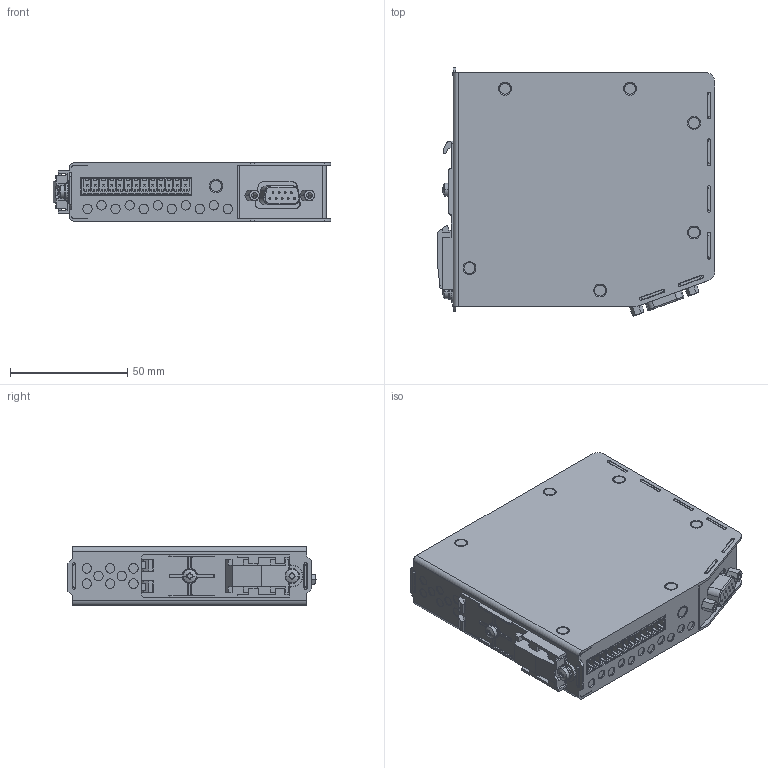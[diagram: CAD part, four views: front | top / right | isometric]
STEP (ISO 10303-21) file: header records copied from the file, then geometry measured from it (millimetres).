
FILE_DESCRIPTION((''),'2;1');
FILE_NAME('1_BM40PB_STEP_SW0001','2018-01-12T',('mellertr'),(''),'CREO PARAMETRIC BY PTC INC, 2017170','CREO PARAMETRIC BY PTC INC, 2017170','');
FILE_SCHEMA(('CONFIG_CONTROL_DESIGN'));
Products named in the file (1): 1_BM40PB_STEP_SW0001
Bounding box: 118.6 x 105.96 x 25 mm (x, y, z)
Volume: 269361.6 mm3; surface area: 39939.2 mm2
Topology: 1 solids, 2 shells, 2284 faces, 5975 edges, 3862 vertices
Faces by surface type: bspline 2284
Entity records: 91688 total; most frequent: CARTESIAN_POINT 27782, ORIENTED_EDGE 11942, DIRECTION 6785, EDGE_CURVE 5971, VECTOR 4697, LINE 4697, VERTEX_POINT 3862, EDGE_LOOP 2489
